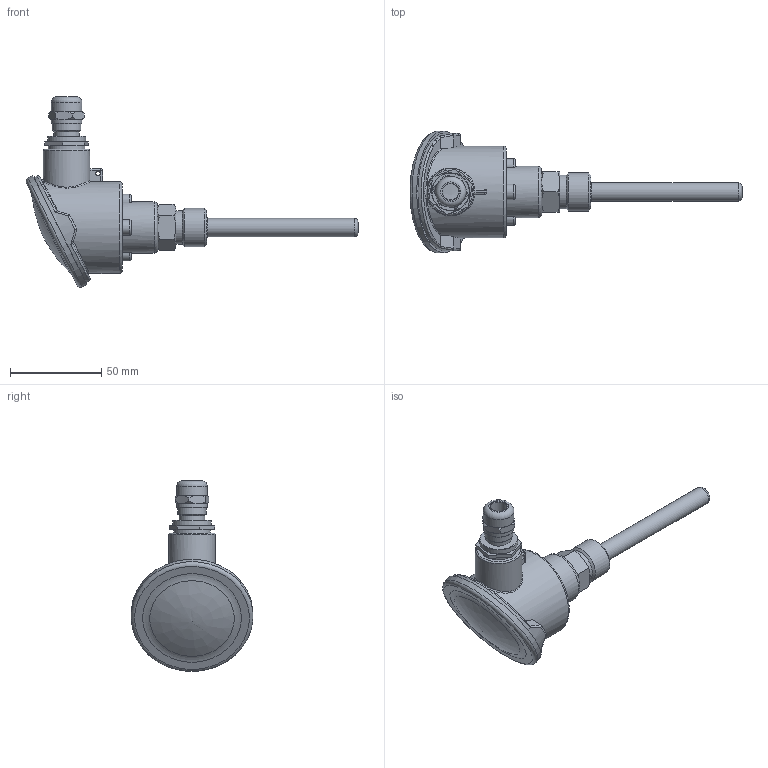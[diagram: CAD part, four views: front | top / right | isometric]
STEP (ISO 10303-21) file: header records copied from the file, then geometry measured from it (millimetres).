
FILE_DESCRIPTION(/* description */ ('Unknown'),/* implementation_level */ '2;1');
FILE_NAME(/* name */ 'TCR6-1520.XXXX.X012.X81X.0100',/* time_stamp */ '2021-01-21T08:20:27+01:00',/* author */ ('Unknown'),/* organization */ ('Unknown'),/* preprocessor_version */ 'ST-DEVELOPER v16.7',/* originating_system */ 'DEX',/* authorisation */ $);
FILE_SCHEMA (('AUTOMOTIVE_DESIGN {1 0 10303 214 3 1 1}'));
Length unit declared in the file: millimetre
Products named in the file (1): Part1
Bounding box: 182.29 x 66.75 x 104.58 mm (x, y, z)
Volume: 64699.9 mm3; surface area: 39062 mm2
Topology: 1 solids, 1 shells, 183 faces, 441 edges, 281 vertices
Faces by surface type: plane 81, cylinder 37, cone 24, torus 19, bspline 18, sphere 4
Full cylindrical faces by diameter (mm): 2.5 x1, 8 x1, 8.1 x1, 9 x1, 10 x1, 11.2 x1, 13.1 x1, 13.157 x1, 14 x1, 14.376 x1, 15.7 x1, 15.77 x1, 16.8 x1, 16.9 x1, 18.376 x1, 18.5 x1, 20 x1, 20.9 x1, 20.955 x1, 25.5 x1, 28.2 x1, 47 x1, 50 x1, 50.5 x1, 64.5 x1, 67 x1
Entity records: 7610 total; most frequent: CARTESIAN_POINT 2601, DIRECTION 738, ORIENTED_EDGE 716, EDGE_CURVE 358, AXIS2_PLACEMENT_3D 324, FACE_BOUND 260, EDGE_LOOP 258, VERTEX_POINT 252
